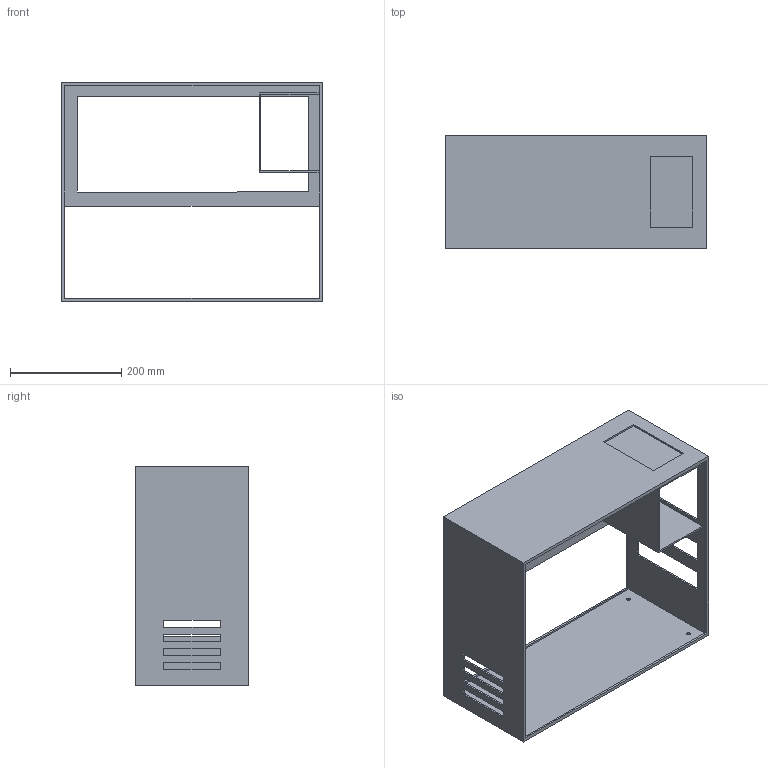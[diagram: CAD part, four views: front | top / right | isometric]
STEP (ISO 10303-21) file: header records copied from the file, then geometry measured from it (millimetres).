
FILE_DESCRIPTION( ( 'STEP AP203' ), '1' );
FILE_NAME( ' ', '2006-02-23T21:56:54', ( ' ' ), ( ' ' ), 'XStep 1.0', ' ', ' ' );
FILE_SCHEMA( ( 'CONFIG_CONTROL_DESIGN' ) );
Length unit declared in the file: inch
Products named in the file (1): 1
Bounding box: 469.9 x 203.2 x 393.7 mm (x, y, z)
Volume: 1284859.3 mm3; surface area: 831613.3 mm2
Topology: 1 solids, 1 shells, 72 faces, 204 edges, 136 vertices
Faces by surface type: plane 64, cylinder 8
Entity records: 2408 total; most frequent: CARTESIAN_POINT 413, ORIENTED_EDGE 408, DIRECTION 366, EDGE_CURVE 204, LINE 188, VECTOR 188, VERTEX_POINT 136, EDGE_LOOP 104
